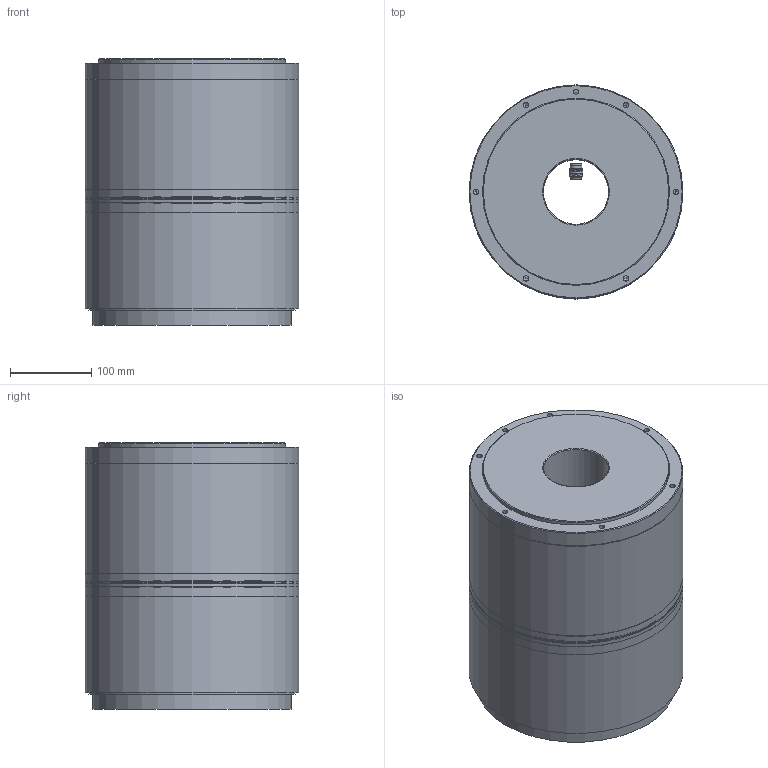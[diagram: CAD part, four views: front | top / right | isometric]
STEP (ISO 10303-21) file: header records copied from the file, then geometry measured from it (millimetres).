
FILE_DESCRIPTION( ( 'STEP AP214' ), '1' );
FILE_NAME( 'E:/LD 系列力矩电机/LD4 系列力矩电机/LD4-263 力矩电机（交叉滚子轴承）2016-07-19/LD4-263 力矩电机（3D图档）/LD4-263188 力矩电机（3D）.stp', '2017-02-16T05:59:37', ( ' ' ), ( ' ' ), 'XStep 1.0', ' ', ' ' );
FILE_SCHEMA( ( 'CONFIG_CONTROL_DESIGN) ( )' ) );
Length unit declared in the file: metre
Products named in the file (6): Assem1; 00-01 LD4-263 隅赽; 01-01 LD4-263 ת; 01-02 LD4-263138 棠; 滅阨諉芛 M14; 滅阨諉芛
Bounding box: 263 x 263 x 327.25 mm (x, y, z)
Volume: 17610400.8 mm3; surface area: 1295343.5 mm2
Topology: 11 solids, 27 shells, 422 faces, 1006 edges, 667 vertices
Faces by surface type: plane 199, cylinder 151, cone 65, torus 7
Full cylindrical faces by diameter (mm): 2.013 x24, 2.459 x4, 6 x5, 6.647 x24, 8 x2, 12 x3, 13 x6, 14 x4, 15 x5, 17 x2, 80 x4, 186 x2, 200 x4, 230 x2, 244 x4, 250 x2, 254 x2, 256 x2, 263 x6
Entity records: 5499 total; most frequent: CARTESIAN_POINT 998, DIRECTION 868, ORIENTED_EDGE 620, AXIS2_PLACEMENT_3D 382, EDGE_CURVE 310, EDGE_LOOP 296, VERTEX_POINT 256, FACE_OUTER_BOUND 247
